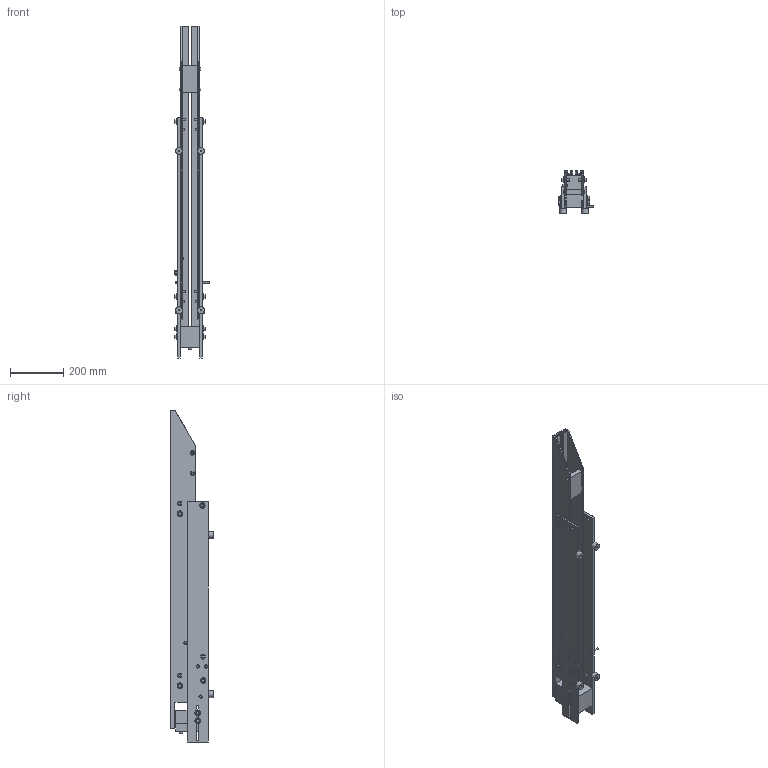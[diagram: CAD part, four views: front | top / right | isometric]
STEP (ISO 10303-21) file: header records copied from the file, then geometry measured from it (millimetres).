
FILE_DESCRIPTION( ( 'STEP AP214' ), ' ' );
FILE_NAME( 'C:/Users/pbuholc/AppData/Local/Temp/psolqas1217244285.stp', '2017-02-27T11:17:24', ( '' ), ( '' ), ' ', 'PARTsolutions', ' ' );
FILE_SCHEMA( ( 'AUTOMOTIVE_DESIGN { 1 0 10303 214 1 1 1 1 }' ) );
Length unit declared in the file: metre
Products named in the file (1): Defeature ausgeführt1
Bounding box: 129.99 x 162.5 x 1250 mm (x, y, z)
Volume: 3562033.2 mm3; surface area: 1081561.9 mm2
Topology: 1 solids, 1 shells, 425 faces, 959 edges, 615 vertices
Faces by surface type: plane 221, cylinder 120, cone 67, torus 8, sphere 8, bspline 1
Full cylindrical faces by diameter (mm): 5 x4, 6 x8, 8 x12, 9.9 x1, 10 x6, 12 x6, 13 x14, 16 x10, 21 x12, 25 x4
Entity records: 11172 total; most frequent: CARTESIAN_POINT 2310, DIRECTION 1914, ORIENTED_EDGE 1532, EDGE_CURVE 766, AXIS2_PLACEMENT_3D 762, EDGE_LOOP 657, VERTEX_POINT 559, FACE_OUTER_BOUND 507
